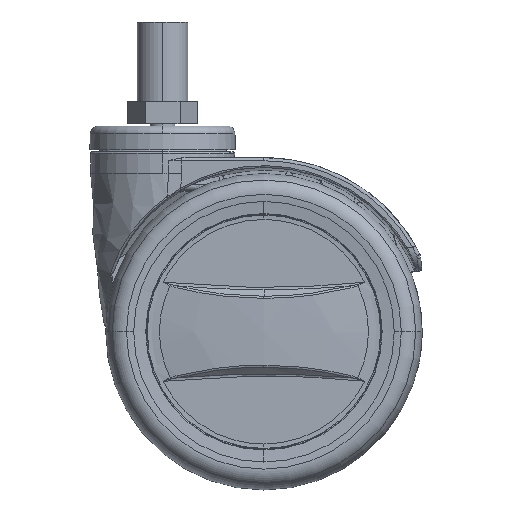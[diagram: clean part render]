
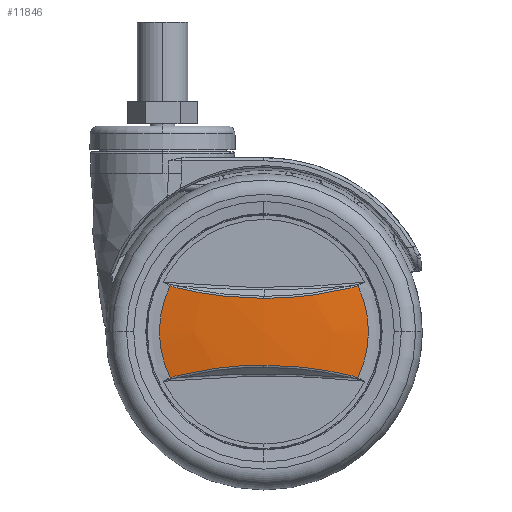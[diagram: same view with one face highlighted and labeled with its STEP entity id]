
A CAD part, front view. The second image highlights one B-rep face of the part: STEP entity #11846.
In plain terms, the highlighted spherical face has radius 200 mm.
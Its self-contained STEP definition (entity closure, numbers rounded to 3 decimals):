
#357=SPHERICAL_SURFACE('',#61773,200.);
#11846=ADVANCED_FACE('',(#15209),#357,.T.);
#15209=FACE_OUTER_BOUND('',#18342,.T.);
#18342=EDGE_LOOP('',(#24854,#24855,#24856,#24857,#24858,#24859,#24860,#24861,
#24862,#24863));
#21696=CIRCLE('',#61771,33.017);
#21697=CIRCLE('',#61772,33.017);
#24854=ORIENTED_EDGE('',*,*,#50203,.T.);
#24855=ORIENTED_EDGE('',*,*,#50194,.T.);
#24856=ORIENTED_EDGE('',*,*,#50191,.T.);
#24857=ORIENTED_EDGE('',*,*,#50189,.T.);
#24858=ORIENTED_EDGE('',*,*,#50187,.T.);
#24859=ORIENTED_EDGE('',*,*,#50204,.T.);
#24860=ORIENTED_EDGE('',*,*,#50183,.F.);
#24861=ORIENTED_EDGE('',*,*,#50181,.T.);
#24862=ORIENTED_EDGE('',*,*,#50179,.T.);
#24863=ORIENTED_EDGE('',*,*,#50177,.F.);
#43726=VERTEX_POINT('',#85417);
#43727=VERTEX_POINT('',#85422);
#43728=VERTEX_POINT('',#85451);
#43729=VERTEX_POINT('',#85538);
#43730=VERTEX_POINT('',#85625);
#43731=VERTEX_POINT('',#85654);
#43733=VERTEX_POINT('',#85664);
#43734=VERTEX_POINT('',#85693);
#43735=VERTEX_POINT('',#85780);
#43737=VERTEX_POINT('',#85868);
#50177=EDGE_CURVE('',#43727,#43726,#59506,.T.);
#50179=EDGE_CURVE('',#43728,#43726,#59507,.T.);
#50181=EDGE_CURVE('',#43729,#43728,#59509,.T.);
#50183=EDGE_CURVE('',#43729,#43730,#59511,.T.);
#50187=EDGE_CURVE('',#43731,#43733,#59514,.T.);
#50189=EDGE_CURVE('',#43734,#43731,#59515,.T.);
#50191=EDGE_CURVE('',#43735,#43734,#59516,.T.);
#50194=EDGE_CURVE('',#43737,#43735,#59518,.T.);
#50203=EDGE_CURVE('',#43727,#43737,#21696,.T.);
#50204=EDGE_CURVE('',#43733,#43730,#21697,.T.);
#59506=B_SPLINE_CURVE_WITH_KNOTS('',3,(#85423,#85424,#85425,#85426),
 .UNSPECIFIED.,.F.,.F.,(4,4),(0.,1.),.UNSPECIFIED.);
#59507=B_SPLINE_CURVE_WITH_KNOTS('',3,(#85452,#85453,#85454,#85455,#85456,
#85457),.UNSPECIFIED.,.F.,.F.,(4,2,4),(0.,0.5,1.),.UNSPECIFIED.);
#59509=B_SPLINE_CURVE_WITH_KNOTS('',3,(#85539,#85540,#85541,#85542,#85543,
#85544),.UNSPECIFIED.,.F.,.F.,(4,2,4),(0.,0.5,1.),.UNSPECIFIED.);
#59511=B_SPLINE_CURVE_WITH_KNOTS('',3,(#85626,#85627,#85628,#85629),
 .UNSPECIFIED.,.F.,.F.,(4,4),(0.,1.),.UNSPECIFIED.);
#59514=B_SPLINE_CURVE_WITH_KNOTS('',3,(#85665,#85666,#85667,#85668),
 .UNSPECIFIED.,.F.,.F.,(4,4),(0.,1.),.UNSPECIFIED.);
#59515=B_SPLINE_CURVE_WITH_KNOTS('',3,(#85694,#85695,#85696,#85697,#85698,
#85699),.UNSPECIFIED.,.F.,.F.,(4,2,4),(0.,0.5,1.),.UNSPECIFIED.);
#59516=B_SPLINE_CURVE_WITH_KNOTS('',3,(#85781,#85782,#85783,#85784,#85785,
#85786),.UNSPECIFIED.,.F.,.F.,(4,2,4),(0.,0.5,1.),.UNSPECIFIED.);
#59518=B_SPLINE_CURVE_WITH_KNOTS('',3,(#85873,#85874,#85875,#85876),
 .UNSPECIFIED.,.F.,.F.,(4,4),(0.,1.),.UNSPECIFIED.);
#61771=AXIS2_PLACEMENT_3D('',#86112,#68155,#68156);
#61772=AXIS2_PLACEMENT_3D('',#86113,#68157,#68158);
#61773=AXIS2_PLACEMENT_3D('',#86114,#68159,#68160);
#68155=DIRECTION('',(0.,-1.,0.));
#68156=DIRECTION('',(0.,0.,-1.));
#68157=DIRECTION('',(0.,-1.,0.));
#68158=DIRECTION('',(0.,0.,-1.));
#68159=DIRECTION('',(0.,0.,-1.));
#68160=DIRECTION('',(0.168,-0.986,0.));
#85417=CARTESIAN_POINT('',(4.574,-34.626,-84.01));
#85422=CARTESIAN_POINT('',(2.368,-34.256,-83.298));
#85423=CARTESIAN_POINT('',(2.368,-34.256,-83.298));
#85424=CARTESIAN_POINT('',(2.889,-34.352,-83.539));
#85425=CARTESIAN_POINT('',(3.627,-34.478,-83.778));
#85426=CARTESIAN_POINT('',(4.574,-34.626,-84.01));
#85451=CARTESIAN_POINT('',(32.,-36.721,-87.302));
#85452=CARTESIAN_POINT('',(32.,-36.721,-87.302));
#85453=CARTESIAN_POINT('',(27.407,-36.721,-87.302));
#85454=CARTESIAN_POINT('',(22.871,-36.552,-87.035));
#85455=CARTESIAN_POINT('',(13.654,-35.854,-85.936));
#85456=CARTESIAN_POINT('',(9.086,-35.329,-85.11));
#85457=CARTESIAN_POINT('',(4.574,-34.626,-84.01));
#85538=CARTESIAN_POINT('',(59.427,-34.626,-84.014));
#85539=CARTESIAN_POINT('',(59.427,-34.626,-84.014));
#85540=CARTESIAN_POINT('',(54.916,-35.329,-85.113));
#85541=CARTESIAN_POINT('',(50.3,-35.858,-85.943));
#85542=CARTESIAN_POINT('',(41.178,-36.549,-87.03));
#85543=CARTESIAN_POINT('',(36.593,-36.721,-87.302));
#85544=CARTESIAN_POINT('',(32.,-36.721,-87.302));
#85625=CARTESIAN_POINT('',(61.634,-34.256,-83.301));
#85626=CARTESIAN_POINT('',(59.427,-34.626,-84.014));
#85627=CARTESIAN_POINT('',(60.375,-34.478,-83.782));
#85628=CARTESIAN_POINT('',(61.112,-34.352,-83.542));
#85629=CARTESIAN_POINT('',(61.634,-34.256,-83.301));
#85654=CARTESIAN_POINT('',(59.427,-34.626,-111.706));
#85664=CARTESIAN_POINT('',(61.634,-34.256,-112.419));
#85665=CARTESIAN_POINT('',(59.427,-34.626,-111.706));
#85666=CARTESIAN_POINT('',(60.371,-34.479,-111.937));
#85667=CARTESIAN_POINT('',(61.106,-34.353,-112.175));
#85668=CARTESIAN_POINT('',(61.634,-34.256,-112.419));
#85693=CARTESIAN_POINT('',(32.,-36.721,-108.418));
#85694=CARTESIAN_POINT('',(32.,-36.721,-108.418));
#85695=CARTESIAN_POINT('',(36.593,-36.721,-108.418));
#85696=CARTESIAN_POINT('',(41.131,-36.552,-108.684));
#85697=CARTESIAN_POINT('',(50.348,-35.854,-109.782));
#85698=CARTESIAN_POINT('',(54.916,-35.329,-110.607));
#85699=CARTESIAN_POINT('',(59.427,-34.626,-111.706));
#85780=CARTESIAN_POINT('',(4.574,-34.626,-111.71));
#85781=CARTESIAN_POINT('',(4.574,-34.626,-111.71));
#85782=CARTESIAN_POINT('',(9.086,-35.329,-110.61));
#85783=CARTESIAN_POINT('',(13.7,-35.857,-109.779));
#85784=CARTESIAN_POINT('',(22.822,-36.549,-108.691));
#85785=CARTESIAN_POINT('',(27.407,-36.721,-108.418));
#85786=CARTESIAN_POINT('',(32.,-36.721,-108.418));
#85868=CARTESIAN_POINT('',(2.368,-34.256,-112.422));
#85873=CARTESIAN_POINT('',(2.368,-34.256,-112.422));
#85874=CARTESIAN_POINT('',(2.895,-34.353,-112.178));
#85875=CARTESIAN_POINT('',(3.631,-34.479,-111.941));
#85876=CARTESIAN_POINT('',(4.574,-34.626,-111.71));
#86112=CARTESIAN_POINT('',(32.,-34.256,-97.86));
#86113=CARTESIAN_POINT('',(32.,-34.256,-97.86));
#86114=CARTESIAN_POINT('',(32.,163.,-97.86));
